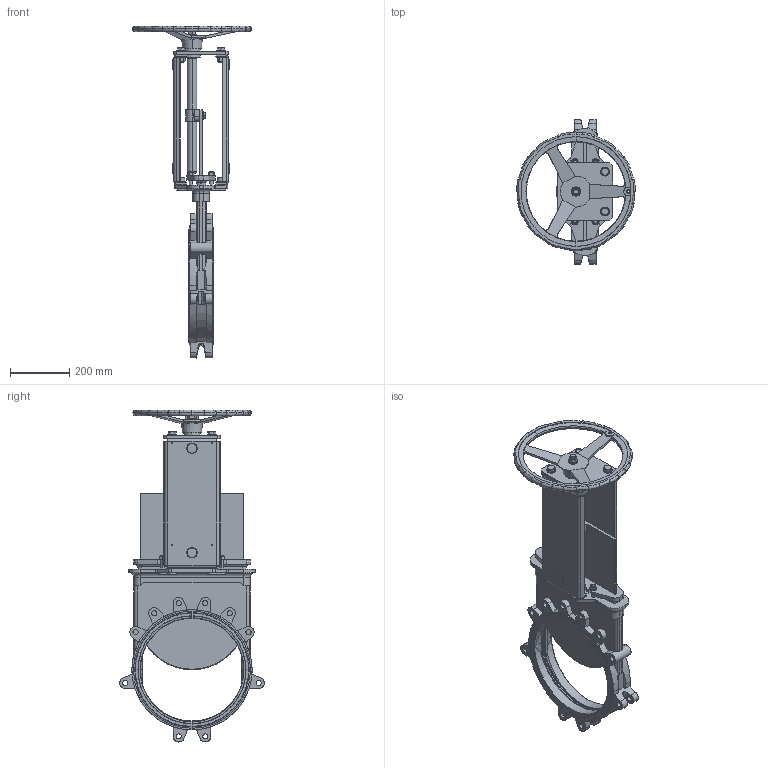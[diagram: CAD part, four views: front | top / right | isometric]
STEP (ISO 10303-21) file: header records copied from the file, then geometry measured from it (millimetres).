
FILE_DESCRIPTION(('STEP AP203'),'1');
FILE_NAME('G:/KONSTRUK/3-d block för CD/WB VALVE/HAND WHEEL/350/WB-DN350-PN10-HW.stp','2012-12-03T08:48:23',(' '),(' '),'Spatial InterOp 3D',' ',' ');
FILE_SCHEMA(('CONFIG_CONTROL_DESIGN'));
Length unit declared in the file: millimetre
Products named in the file (7): 1; 2; 3; 4; 5; 6; 7
Bounding box: 402 x 489.16 x 1124.08 mm (x, y, z)
Volume: 11212162.2 mm3; surface area: 2075912.7 mm2
Topology: 7 solids, 20 shells, 1471 faces, 3688 edges, 2348 vertices
Faces by surface type: plane 591, cylinder 394, cone 309, torus 163, bspline 14
Entity records: 52345 total; most frequent: CARTESIAN_POINT 16225, DIRECTION 7798, ORIENTED_EDGE 7376, EDGE_CURVE 3688, AXIS2_PLACEMENT_3D 3132, VERTEX_POINT 2348, EDGE_LOOP 1638, CIRCLE 1637
